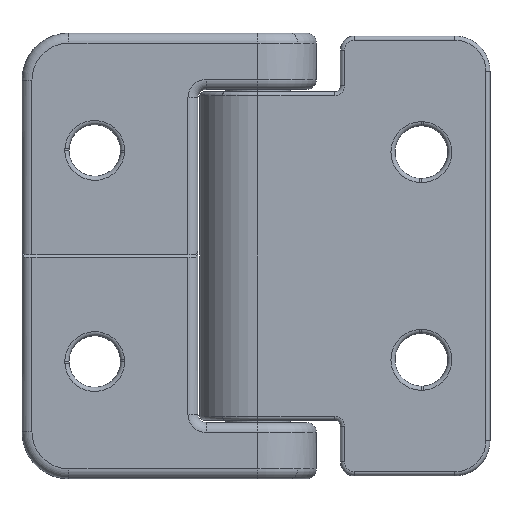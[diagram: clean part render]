
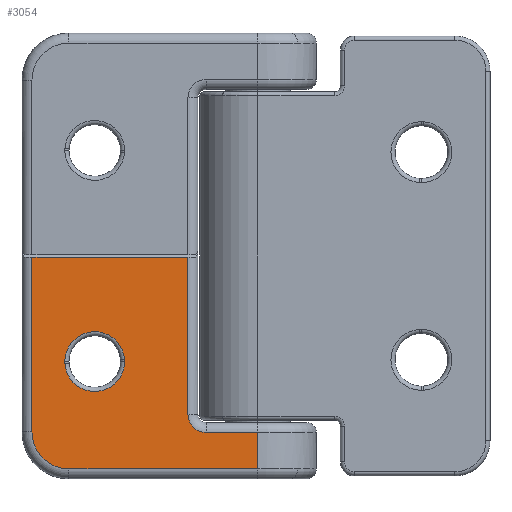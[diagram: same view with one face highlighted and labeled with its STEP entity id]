
A CAD part, left-side view. The second image highlights one B-rep face of the part: STEP entity #3054.
In plain terms, the highlighted planar face has unit normal (-1, 0, 0).
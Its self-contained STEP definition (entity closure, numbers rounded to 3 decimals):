
#96 = VECTOR ( 'NONE', #3302, 1000. ) ;
#138 = VECTOR ( 'NONE', #11041, 1000. ) ;
#249 = ORIENTED_EDGE ( 'NONE', *, *, #7677, .F. ) ;
#408 = CARTESIAN_POINT ( 'NONE',  ( -43.233, 22.253, 0.004 ) ) ;
#531 = VERTEX_POINT ( 'NONE', #583 ) ;
#583 = CARTESIAN_POINT ( 'NONE',  ( -43.233, 14.304, 8.903 ) ) ;
#602 = DIRECTION ( 'NONE',  ( 0., -1., 0. ) ) ;
#778 = CARTESIAN_POINT ( 'NONE',  ( -43.233, 8.354, -6.046 ) ) ;
#820 = FACE_OUTER_BOUND ( 'NONE', #1181, .T. ) ;
#830 = AXIS2_PLACEMENT_3D ( 'NONE', #408, #2153, #6316 ) ;
#981 = ORIENTED_EDGE ( 'NONE', *, *, #2569, .F. ) ;
#1181 = EDGE_LOOP ( 'NONE', ( #5020, #9612, #981, #6207, #9396, #249, #10270, #5061 ) ) ;
#1279 = AXIS2_PLACEMENT_3D ( 'NONE', #9049, #6428, #2151 ) ;
#1310 = ORIENTED_EDGE ( 'NONE', *, *, #8874, .T. ) ;
#1330 = DIRECTION ( 'NONE',  ( 0., -1., 0. ) ) ;
#1439 = VERTEX_POINT ( 'NONE', #7098 ) ;
#1540 = AXIS2_PLACEMENT_3D ( 'NONE', #6926, #10327, #5351 ) ;
#1553 = LINE ( 'NONE', #6728, #3393 ) ;
#1566 = CARTESIAN_POINT ( 'NONE',  ( -43.233, 24.797, -0.174 ) ) ;
#1824 = EDGE_CURVE ( 'NONE', #3322, #2618, #5141, .T. ) ;
#1859 = CARTESIAN_POINT ( 'NONE',  ( -43.233, 12.754, -4.496 ) ) ;
#1916 = VECTOR ( 'NONE', #602, 1000. ) ;
#2005 = VERTEX_POINT ( 'NONE', #4056 ) ;
#2151 = DIRECTION ( 'NONE',  ( 0., 0., -1. ) ) ;
#2153 = DIRECTION ( 'NONE',  ( 1., 0., 0. ) ) ;
#2275 = VERTEX_POINT ( 'NONE', #7264 ) ;
#2366 = ORIENTED_EDGE ( 'NONE', *, *, #1824, .T. ) ;
#2569 = EDGE_CURVE ( 'NONE', #6000, #5130, #8986, .T. ) ;
#2603 = DIRECTION ( 'NONE',  ( 0., 1., 0. ) ) ;
#2618 = VERTEX_POINT ( 'NONE', #1566 ) ;
#2838 = ORIENTED_EDGE ( 'NONE', *, *, #7724, .T. ) ;
#2909 = EDGE_CURVE ( 'NONE', #2618, #2275, #8587, .T. ) ;
#3054 = ADVANCED_FACE ( 'NONE', ( #9030, #820 ), #7516, .T. ) ;
#3171 = CIRCLE ( 'NONE', #830, 2.55 ) ;
#3302 = DIRECTION ( 'NONE',  ( 0., -1., 0. ) ) ;
#3322 = VERTEX_POINT ( 'NONE', #4750 ) ;
#3393 = VECTOR ( 'NONE', #5726, 1000. ) ;
#3594 = EDGE_CURVE ( 'NONE', #5243, #3922, #10724, .T. ) ;
#3728 = AXIS2_PLACEMENT_3D ( 'NONE', #5056, #7412, #4050 ) ;
#3787 = LINE ( 'NONE', #9704, #5687 ) ;
#3922 = VERTEX_POINT ( 'NONE', #4832 ) ;
#3987 = CIRCLE ( 'NONE', #1279, 3.15 ) ;
#4050 = DIRECTION ( 'NONE',  ( 0., 1., 0. ) ) ;
#4056 = CARTESIAN_POINT ( 'NONE',  ( -43.233, 19.71, 0.182 ) ) ;
#4106 = AXIS2_PLACEMENT_3D ( 'NONE', #10642, #8252, #1330 ) ;
#4152 = LINE ( 'NONE', #7559, #96 ) ;
#4479 = CARTESIAN_POINT ( 'NONE',  ( -43.233, 27.603, -5.996 ) ) ;
#4556 = EDGE_CURVE ( 'NONE', #3922, #6000, #4152, .T. ) ;
#4750 = CARTESIAN_POINT ( 'NONE',  ( -43.233, 19.703, 0.004 ) ) ;
#4832 = CARTESIAN_POINT ( 'NONE',  ( -43.233, 12.754, -6.046 ) ) ;
#4844 = VERTEX_POINT ( 'NONE', #5025 ) ;
#5020 = ORIENTED_EDGE ( 'NONE', *, *, #6354, .F. ) ;
#5025 = CARTESIAN_POINT ( 'NONE',  ( -43.233, 24.453, -9.146 ) ) ;
#5056 = CARTESIAN_POINT ( 'NONE',  ( -43.233, 22.253, 0.004 ) ) ;
#5061 = ORIENTED_EDGE ( 'NONE', *, *, #9878, .F. ) ;
#5130 = VERTEX_POINT ( 'NONE', #10251 ) ;
#5141 = CIRCLE ( 'NONE', #1540, 2.55 ) ;
#5243 = VERTEX_POINT ( 'NONE', #7963 ) ;
#5351 = DIRECTION ( 'NONE',  ( 0., -1., 0. ) ) ;
#5687 = VECTOR ( 'NONE', #8041, 1000. ) ;
#5726 = DIRECTION ( 'NONE',  ( 0., 1., 0. ) ) ;
#5920 = EDGE_LOOP ( 'NONE', ( #2366, #7681, #1310, #2838 ) ) ;
#5945 = CARTESIAN_POINT ( 'NONE',  ( -43.233, 28.453, 10.003 ) ) ;
#6000 = VERTEX_POINT ( 'NONE', #8958 ) ;
#6113 = DIRECTION ( 'NONE',  ( 0., 0., 1. ) ) ;
#6207 = ORIENTED_EDGE ( 'NONE', *, *, #4556, .F. ) ;
#6316 = DIRECTION ( 'NONE',  ( 0., 1., 0. ) ) ;
#6354 = EDGE_CURVE ( 'NONE', #4844, #8798, #3987, .T. ) ;
#6428 = DIRECTION ( 'NONE',  ( 1., 0., 0. ) ) ;
#6728 = CARTESIAN_POINT ( 'NONE',  ( -43.233, 8.354, -9.146 ) ) ;
#6926 = CARTESIAN_POINT ( 'NONE',  ( -43.233, 22.253, 0.004 ) ) ;
#7098 = CARTESIAN_POINT ( 'NONE',  ( -43.233, 27.603, 8.903 ) ) ;
#7264 = CARTESIAN_POINT ( 'NONE',  ( -43.233, 24.803, 0.004 ) ) ;
#7412 = DIRECTION ( 'NONE',  ( 1., 0., 0. ) ) ;
#7483 = VECTOR ( 'NONE', #6113, 1000. ) ;
#7516 = PLANE ( 'NONE',  #11072 ) ;
#7559 = CARTESIAN_POINT ( 'NONE',  ( -43.233, 12.754, -6.046 ) ) ;
#7677 = EDGE_CURVE ( 'NONE', #531, #5243, #3787, .T. ) ;
#7681 = ORIENTED_EDGE ( 'NONE', *, *, #2909, .T. ) ;
#7683 = CARTESIAN_POINT ( 'NONE',  ( -43.233, 27.603, -5.996 ) ) ;
#7724 = EDGE_CURVE ( 'NONE', #2005, #3322, #8560, .T. ) ;
#7963 = CARTESIAN_POINT ( 'NONE',  ( -43.233, 14.304, -4.496 ) ) ;
#8041 = DIRECTION ( 'NONE',  ( 0., 0., -1. ) ) ;
#8252 = DIRECTION ( 'NONE',  ( 1., 0., 0. ) ) ;
#8310 = LINE ( 'NONE', #8364, #1916 ) ;
#8364 = CARTESIAN_POINT ( 'NONE',  ( -43.233, 27.603, 8.903 ) ) ;
#8560 = CIRCLE ( 'NONE', #3728, 2.55 ) ;
#8587 = CIRCLE ( 'NONE', #4106, 2.55 ) ;
#8798 = VERTEX_POINT ( 'NONE', #4479 ) ;
#8874 = EDGE_CURVE ( 'NONE', #2275, #2005, #3171, .T. ) ;
#8958 = CARTESIAN_POINT ( 'NONE',  ( -43.233, 8.354, -6.046 ) ) ;
#8986 = LINE ( 'NONE', #778, #138 ) ;
#9030 = FACE_BOUND ( 'NONE', #5920, .T. ) ;
#9049 = CARTESIAN_POINT ( 'NONE',  ( -43.233, 24.453, -5.996 ) ) ;
#9304 = DIRECTION ( 'NONE',  ( -1., 0., 0. ) ) ;
#9396 = ORIENTED_EDGE ( 'NONE', *, *, #3594, .F. ) ;
#9489 = EDGE_CURVE ( 'NONE', #1439, #531, #8310, .T. ) ;
#9612 = ORIENTED_EDGE ( 'NONE', *, *, #10707, .F. ) ;
#9704 = CARTESIAN_POINT ( 'NONE',  ( -43.233, 14.304, 8.903 ) ) ;
#9822 = AXIS2_PLACEMENT_3D ( 'NONE', #1859, #11065, #2603 ) ;
#9878 = EDGE_CURVE ( 'NONE', #8798, #1439, #10353, .T. ) ;
#10251 = CARTESIAN_POINT ( 'NONE',  ( -43.233, 8.354, -9.146 ) ) ;
#10270 = ORIENTED_EDGE ( 'NONE', *, *, #9489, .F. ) ;
#10327 = DIRECTION ( 'NONE',  ( 1., 0., 0. ) ) ;
#10353 = LINE ( 'NONE', #7683, #7483 ) ;
#10642 = CARTESIAN_POINT ( 'NONE',  ( -43.233, 22.253, 0.004 ) ) ;
#10707 = EDGE_CURVE ( 'NONE', #5130, #4844, #1553, .T. ) ;
#10724 = CIRCLE ( 'NONE', #9822, 1.55 ) ;
#10922 = DIRECTION ( 'NONE',  ( 0., 0., 1. ) ) ;
#11041 = DIRECTION ( 'NONE',  ( 0., 0., -1. ) ) ;
#11065 = DIRECTION ( 'NONE',  ( -1., 0., 0. ) ) ;
#11072 = AXIS2_PLACEMENT_3D ( 'NONE', #5945, #9304, #10922 ) ;
